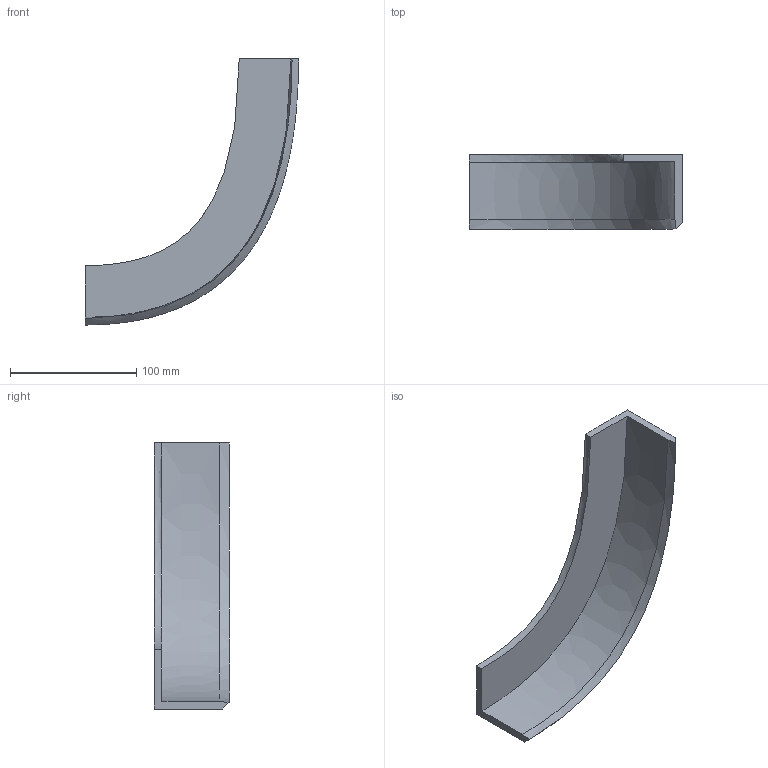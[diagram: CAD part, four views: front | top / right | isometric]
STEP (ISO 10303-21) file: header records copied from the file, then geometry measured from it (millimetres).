
FILE_DESCRIPTION(/* description */ (''),/* implementation_level */ '2;1');
FILE_NAME(/* name */ 'bar_2_left',/* time_stamp */ '2018-02-20T19:22:17+01:00',/* author */ (''),/* organization */ (''),/* preprocessor_version */ 'ST-DEVELOPER v14',/* originating_system */ '',/* authorisation */ '');
FILE_SCHEMA (('CONFIG_CONTROL_DESIGN'));
Length unit declared in the file: millimetre
Products named in the file (1): Document
Bounding box: 168.95 x 59.65 x 210.95 mm (x, y, z)
Volume: 168922.3 mm3; surface area: 61310.7 mm2
Topology: 1 solids, 1 shells, 9 faces, 21 edges, 14 vertices
Faces by surface type: bspline 9
Entity records: 5658 total; most frequent: CARTESIAN_POINT 5432, ORIENTED_EDGE 42, EDGE_CURVE 21, B_SPLINE_CURVE_WITH_KNOTS 21, VERTEX_POINT 14, ADVANCED_FACE 9, FACE_OUTER_BOUND 9, EDGE_LOOP 9
